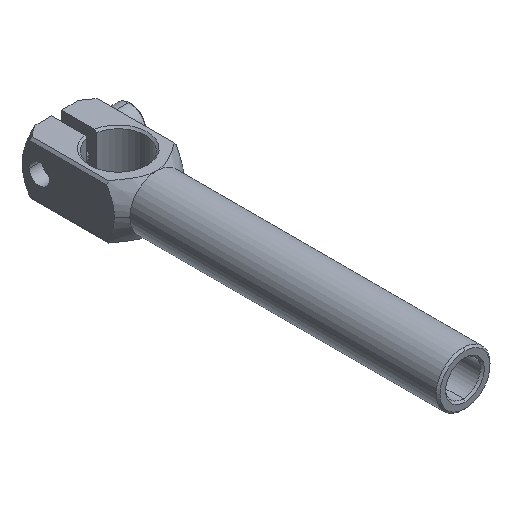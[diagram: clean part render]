
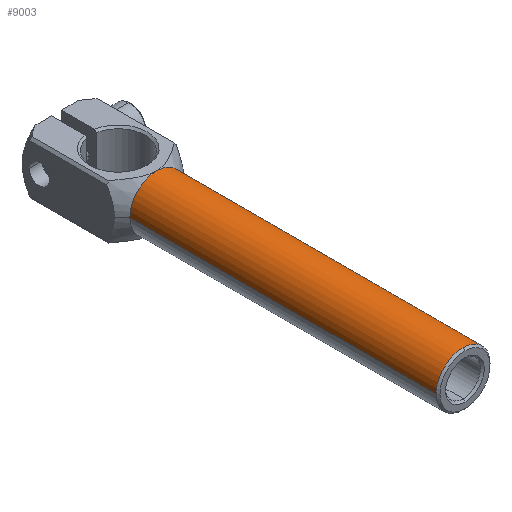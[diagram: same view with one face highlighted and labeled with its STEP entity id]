
A CAD part, isometric view. The second image highlights one B-rep face of the part: STEP entity #9003.
In plain terms, the highlighted cylindrical face has radius 7 mm (diameter 14 mm), a partial arc.
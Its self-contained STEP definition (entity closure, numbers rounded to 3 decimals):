
#245 = EDGE_CURVE ( 'NONE', #4927, #8973, #1541, .T. ) ;
#840 = CARTESIAN_POINT ( 'NONE',  ( 45.408, 36.654, 0. ) ) ;
#913 = CYLINDRICAL_SURFACE ( 'NONE', #3645, 7. ) ;
#1324 = ORIENTED_EDGE ( 'NONE', *, *, #3237, .T. ) ;
#1541 = LINE ( 'NONE', #7262, #11037 ) ;
#1729 = DIRECTION ( 'NONE',  ( 0., -1., 0. ) ) ;
#1863 = DIRECTION ( 'NONE',  ( 1., 0., 0. ) ) ;
#2395 = CIRCLE ( 'NONE', #10537, 7. ) ;
#2482 = EDGE_CURVE ( 'NONE', #4109, #11634, #7829, .T. ) ;
#2575 = CARTESIAN_POINT ( 'NONE',  ( 52.408, 36.654, 7. ) ) ;
#2776 = DIRECTION ( 'NONE',  ( 0., 0., 1. ) ) ;
#2900 = CARTESIAN_POINT ( 'NONE',  ( 52.408, 36.654, 0. ) ) ;
#2954 = CIRCLE ( 'NONE', #3377, 7. ) ;
#3211 = AXIS2_PLACEMENT_3D ( 'NONE', #2900, #1729, #2776 ) ;
#3237 = EDGE_CURVE ( 'NONE', #11063, #4927, #4845, .T. ) ;
#3377 = AXIS2_PLACEMENT_3D ( 'NONE', #10727, #9776, #4144 ) ;
#3417 = CIRCLE ( 'NONE', #3211, 7. ) ;
#3645 = AXIS2_PLACEMENT_3D ( 'NONE', #10183, #10379, #1863 ) ;
#4089 = DIRECTION ( 'NONE',  ( 0., -1., 0. ) ) ;
#4109 = VERTEX_POINT ( 'NONE', #5736 ) ;
#4144 = DIRECTION ( 'NONE',  ( 0., 0., -1. ) ) ;
#4335 = CARTESIAN_POINT ( 'NONE',  ( 59.408, 36.654, 0. ) ) ;
#4733 = CARTESIAN_POINT ( 'NONE',  ( 52.408, -42.846, 7. ) ) ;
#4845 = CIRCLE ( 'NONE', #6405, 7. ) ;
#4927 = VERTEX_POINT ( 'NONE', #840 ) ;
#4977 = VERTEX_POINT ( 'NONE', #4733 ) ;
#5300 = DIRECTION ( 'NONE',  ( 0., -1., 0. ) ) ;
#5736 = CARTESIAN_POINT ( 'NONE',  ( 59.408, 36.654, 0. ) ) ;
#5884 = ORIENTED_EDGE ( 'NONE', *, *, #9988, .F. ) ;
#5945 = DIRECTION ( 'NONE',  ( 0., -1., 0. ) ) ;
#6271 = DIRECTION ( 'NONE',  ( 0., 0., 1. ) ) ;
#6405 = AXIS2_PLACEMENT_3D ( 'NONE', #10169, #5300, #6271 ) ;
#6580 = EDGE_CURVE ( 'NONE', #4977, #8973, #2395, .T. ) ;
#6991 = EDGE_LOOP ( 'NONE', ( #1324, #9183, #11070, #5884, #10557, #10512 ) ) ;
#7143 = EDGE_CURVE ( 'NONE', #4109, #11063, #3417, .T. ) ;
#7262 = CARTESIAN_POINT ( 'NONE',  ( 45.408, 36.654, 0. ) ) ;
#7829 = LINE ( 'NONE', #4335, #11154 ) ;
#7836 = DIRECTION ( 'NONE',  ( 0., 0., -1. ) ) ;
#8178 = CARTESIAN_POINT ( 'NONE',  ( 59.408, -42.846, 0. ) ) ;
#8973 = VERTEX_POINT ( 'NONE', #12266 ) ;
#9003 = ADVANCED_FACE ( 'NONE', ( #10312 ), #913, .T. ) ;
#9165 = DIRECTION ( 'NONE',  ( 0., -1., 0. ) ) ;
#9183 = ORIENTED_EDGE ( 'NONE', *, *, #245, .T. ) ;
#9776 = DIRECTION ( 'NONE',  ( 0., -1., 0. ) ) ;
#9988 = EDGE_CURVE ( 'NONE', #11634, #4977, #2954, .T. ) ;
#10169 = CARTESIAN_POINT ( 'NONE',  ( 52.408, 36.654, 0. ) ) ;
#10183 = CARTESIAN_POINT ( 'NONE',  ( 52.408, 36.654, 0. ) ) ;
#10312 = FACE_OUTER_BOUND ( 'NONE', #6991, .T. ) ;
#10379 = DIRECTION ( 'NONE',  ( 0., -1., 0. ) ) ;
#10512 = ORIENTED_EDGE ( 'NONE', *, *, #7143, .T. ) ;
#10537 = AXIS2_PLACEMENT_3D ( 'NONE', #10675, #4089, #7836 ) ;
#10557 = ORIENTED_EDGE ( 'NONE', *, *, #2482, .F. ) ;
#10675 = CARTESIAN_POINT ( 'NONE',  ( 52.408, -42.846, 0. ) ) ;
#10727 = CARTESIAN_POINT ( 'NONE',  ( 52.408, -42.846, 0. ) ) ;
#11037 = VECTOR ( 'NONE', #9165, 1000. ) ;
#11063 = VERTEX_POINT ( 'NONE', #2575 ) ;
#11070 = ORIENTED_EDGE ( 'NONE', *, *, #6580, .F. ) ;
#11154 = VECTOR ( 'NONE', #5945, 1000. ) ;
#11634 = VERTEX_POINT ( 'NONE', #8178 ) ;
#12266 = CARTESIAN_POINT ( 'NONE',  ( 45.408, -42.846, 0. ) ) ;
